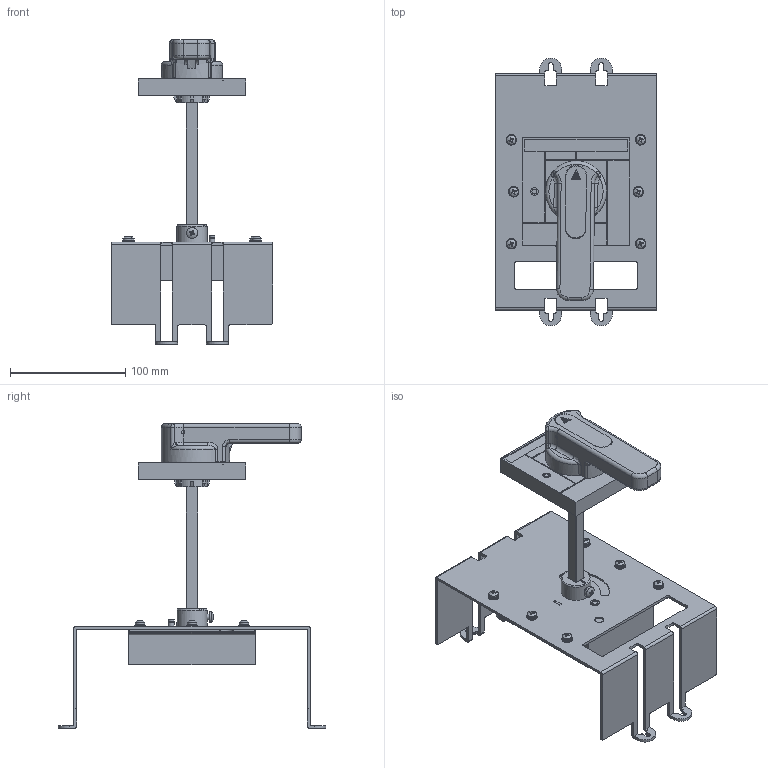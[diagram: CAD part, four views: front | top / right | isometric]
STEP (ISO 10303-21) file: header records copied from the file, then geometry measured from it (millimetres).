
FILE_DESCRIPTION(/* description */ (''),/* implementation_level */ '2;1');
FILE_NAME(/* name */ 'CM5-630手操C-F.stp',/* time_stamp */ '2022-03-02T12:55:13+08:00',/* author */ (''),/* organization */ (''),/* preprocessor_version */ 'ST-DEVELOPER v16.7',/* originating_system */ 'SIEMENS PLM Software NX 12.0',/* authorisation */ '');
FILE_SCHEMA (('AUTOMOTIVE_DESIGN { 1 0 10303 214 3 1 1 1 }'));
Length unit declared in the file: millimetre
Products named in the file (1): _model1
Bounding box: 140 x 232 x 264.01 mm (x, y, z)
Volume: 646955.6 mm3; surface area: 151330.5 mm2
Topology: 3 solids, 15 shells, 718 faces, 1863 edges, 1206 vertices
Faces by surface type: plane 423, cylinder 242, torus 19, cone 17, bspline 10, sphere 7
Full cylindrical faces by diameter (mm): 3 x3, 3.5 x6, 4 x12, 4.2 x6, 4.3 x1, 5 x4, 6.7 x1, 6.78 x6, 7 x1, 8 x8, 9 x6, 9.5 x1, 26 x1
Entity records: 21851 total; most frequent: CARTESIAN_POINT 4483, DIRECTION 3716, ORIENTED_EDGE 3456, EDGE_CURVE 1728, AXIS2_PLACEMENT_3D 1348, VERTEX_POINT 1158, LINE 1020, VECTOR 1020
